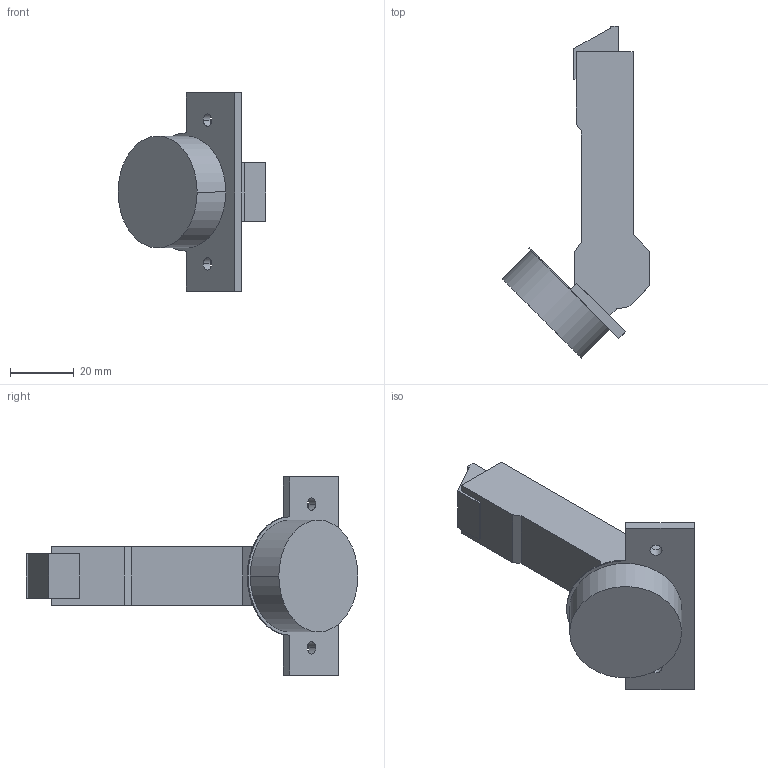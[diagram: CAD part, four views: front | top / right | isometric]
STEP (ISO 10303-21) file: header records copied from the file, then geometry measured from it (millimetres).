
FILE_DESCRIPTION (( 'STEP AP214' ), '1' );
FILE_NAME ('Scharnier TT Click-on 110°_+45° B_BB, aufliegend, KMPL-37, H00.step', '2018-09-19T13:18:32', ( '' ), ( '' ), 'SwSTEP 2.0', 'SolidWorks 2017', '' );
FILE_SCHEMA (( 'AUTOMOTIVE_DESIGN' ));
Length unit declared in the file: millimetre
Products named in the file (1): Scharnier TT Click-on 110°_+45° B_BB, aufliegend, KMPL-37, H00
Bounding box: 46.27 x 103.84 x 62 mm (x, y, z)
Volume: 43351.3 mm3; surface area: 12010.3 mm2
Topology: 1 solids, 1 shells, 48 faces, 126 edges, 84 vertices
Faces by surface type: plane 35, cylinder 13
Entity records: 1518 total; most frequent: CARTESIAN_POINT 259, ORIENTED_EDGE 252, DIRECTION 250, EDGE_CURVE 126, VECTOR 100, LINE 100, VERTEX_POINT 84, AXIS2_PLACEMENT_3D 75
